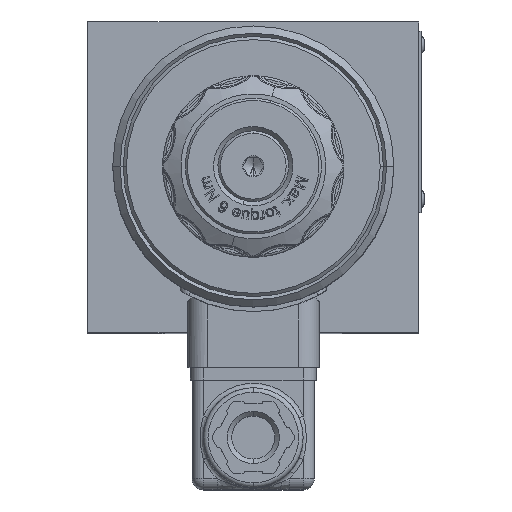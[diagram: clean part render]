
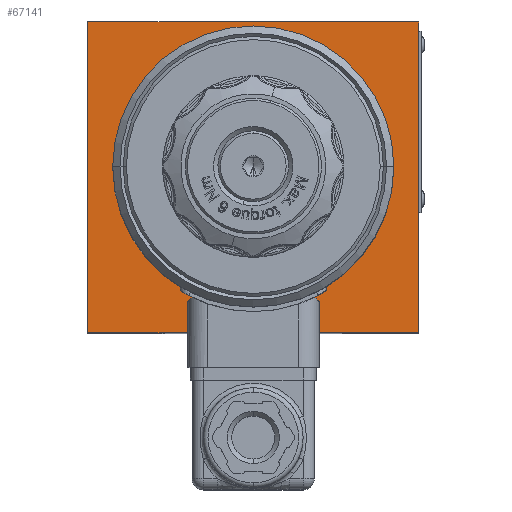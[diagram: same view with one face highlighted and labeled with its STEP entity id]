
A CAD part, top view. The second image highlights one B-rep face of the part: STEP entity #67141.
In plain terms, the highlighted planar face has unit normal (0, 0, 1).
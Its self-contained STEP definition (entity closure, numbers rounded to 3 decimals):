
#7115=DIRECTION('',(0.,1.,0.));
#7116=VECTOR('',#7115,68.5);
#7117=CARTESIAN_POINT('',(-36.5,-36.5,132.5));
#7118=LINE('',#7117,#7116);
#7119=DIRECTION('',(1.,0.,0.));
#7120=VECTOR('',#7119,73.);
#7121=CARTESIAN_POINT('',(-36.5,32.,132.5));
#7122=LINE('',#7121,#7120);
#7123=DIRECTION('',(0.,1.,0.));
#7124=VECTOR('',#7123,68.5);
#7125=CARTESIAN_POINT('',(36.5,-36.5,132.5));
#7126=LINE('',#7125,#7124);
#7127=DIRECTION('',(1.,0.,0.));
#7128=VECTOR('',#7127,73.);
#7129=CARTESIAN_POINT('',(-36.5,-36.5,132.5));
#7130=LINE('',#7129,#7128);
#7131=CARTESIAN_POINT('',(0.,0.,132.5));
#7132=DIRECTION('',(0.,0.,-1.));
#7133=DIRECTION('',(1.,0.,0.));
#7134=AXIS2_PLACEMENT_3D('',#7131,#7132,#7133);
#7136=CARTESIAN_POINT('',(0.,0.,132.5));
#7137=DIRECTION('',(0.,0.,-1.));
#7138=DIRECTION('',(-1.,0.,0.));
#7139=AXIS2_PLACEMENT_3D('',#7136,#7137,#7138);
#59933=CARTESIAN_POINT('',(-36.5,32.,132.5));
#59934=VERTEX_POINT('',#59933);
#59938=CARTESIAN_POINT('',(36.5,32.,132.5));
#59940=VERTEX_POINT('',#59938);
#60000=CARTESIAN_POINT('',(-36.5,-36.5,132.5));
#60001=VERTEX_POINT('',#60000);
#60002=CARTESIAN_POINT('',(36.5,-36.5,132.5));
#60003=VERTEX_POINT('',#60002);
#61729=CARTESIAN_POINT('',(31.,0.,132.5));
#61730=CARTESIAN_POINT('',(-31.,0.,132.5));
#61731=VERTEX_POINT('',#61729);
#61732=VERTEX_POINT('',#61730);
#67123=CARTESIAN_POINT('',(-46.8,-40.,132.5));
#67124=DIRECTION('',(0.,0.,-1.));
#67125=DIRECTION('',(0.,1.,0.));
#67126=AXIS2_PLACEMENT_3D('',#67123,#67124,#67125);
#67127=PLANE('',#67126);
#67128=ORIENTED_EDGE('',*,*,#63514,.T.);
#67129=ORIENTED_EDGE('',*,*,#63944,.T.);
#67131=ORIENTED_EDGE('',*,*,#67130,.F.);
#67132=ORIENTED_EDGE('',*,*,#64052,.F.);
#67133=EDGE_LOOP('',(#67128,#67129,#67131,#67132));
#67134=FACE_OUTER_BOUND('',#67133,.F.);
#67136=ORIENTED_EDGE('',*,*,#67135,.F.);
#67138=ORIENTED_EDGE('',*,*,#67137,.F.);
#67139=EDGE_LOOP('',(#67136,#67138));
#67140=FACE_BOUND('',#67139,.F.);
#67141=ADVANCED_FACE('',(#67134,#67140),#67127,.F.);
#7135=CIRCLE('',#7134,31.);
#7140=CIRCLE('',#7139,31.);
#63514=EDGE_CURVE('',#60001,#59934,#7118,.T.);
#63944=EDGE_CURVE('',#59934,#59940,#7122,.T.);
#64052=EDGE_CURVE('',#60001,#60003,#7130,.T.);
#67130=EDGE_CURVE('',#60003,#59940,#7126,.T.);
#67135=EDGE_CURVE('',#61731,#61732,#7135,.T.);
#67137=EDGE_CURVE('',#61732,#61731,#7140,.T.);
